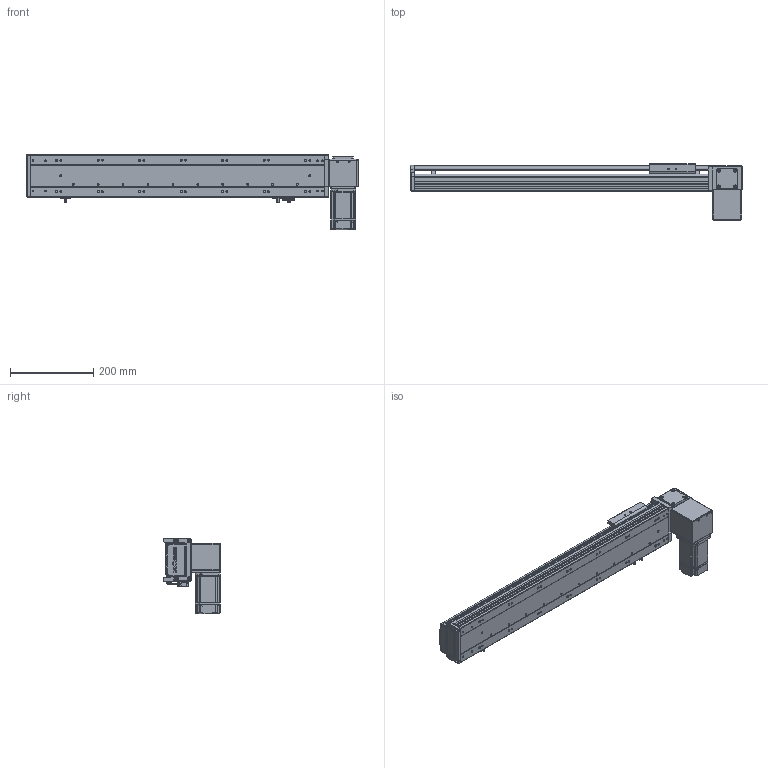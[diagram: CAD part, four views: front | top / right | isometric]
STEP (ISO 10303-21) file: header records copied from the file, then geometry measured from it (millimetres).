
FILE_DESCRIPTION (( 'STEP AP203' ), '1' );
FILE_NAME ('RY100-T-300-DL.SLDASM_500.step', '2024-04-24T01:10:48', ( '盈信电脑' ), ( '东莞市道滘镇水果街19号' ), 'SwSTEP 2.0', 'SolidWorks 2016', '' );
FILE_SCHEMA (( 'CONFIG_CONTROL_DESIGN' ));
Length unit declared in the file: millimetre
Products named in the file (16): RY100-T粣創揤踡裔; RY100俋离覜茼え; RY100-T-300-RK倰第奻裔_500; RY100-T翋肮祭謫裔啣2; RY100-T翋肮祭謫粣; RY100-T左右折电机安装板; RY100-T-300-DL.SLDASM_500; RY80-T肮祭謫狟殏俋欶; RY100綴裔啣; 滅袉蝶18-10; RY100-T肮祭謫臏賑輸; RY100-T翋肮祭謫裔啣; 1; RY100-T肮祭謫翋盓傅釱; RY100-T-300-RK倰第菁釱_500; 覜茼ん672
Assembly tree (18 placements, depth 2):
  RY100-T-300-DL.SLDASM_500
    RY100-T-300-RK倰第菁釱_500
    RY100-T-300-RK倰第奻裔_500
    RY100-T肮祭謫臏賑輸
    RY100綴裔啣
    覜茼ん672  x3
    RY100俋离覜茼え
    RY100-T翋肮祭謫粣
    RY100-T肮祭謫翋盓傅釱
    滅袉蝶18-10  x2
    RY100-T翋肮祭謫裔啣
    1
    RY100-T左右折电机安装板
    RY100-T粣創揤踡裔
    RY100-T翋肮祭謫裔啣2
    RY80-T肮祭謫狟殏俋欶
Bounding box: 800 x 135.5 x 182.5 mm (x, y, z)
Volume: 1842580 mm3; surface area: 731252.5 mm2
Topology: 18 solids, 18 shells, 2209 faces, 6113 edges, 3967 vertices
Faces by surface type: plane 1211, cylinder 781, cone 139, bspline 78
Entity records: 70950 total; most frequent: CARTESIAN_POINT 17072, ORIENTED_EDGE 11058, DIRECTION 10545, EDGE_CURVE 5529, VERTEX_POINT 3635, LINE 3595, VECTOR 3595, AXIS2_PLACEMENT_3D 3475
